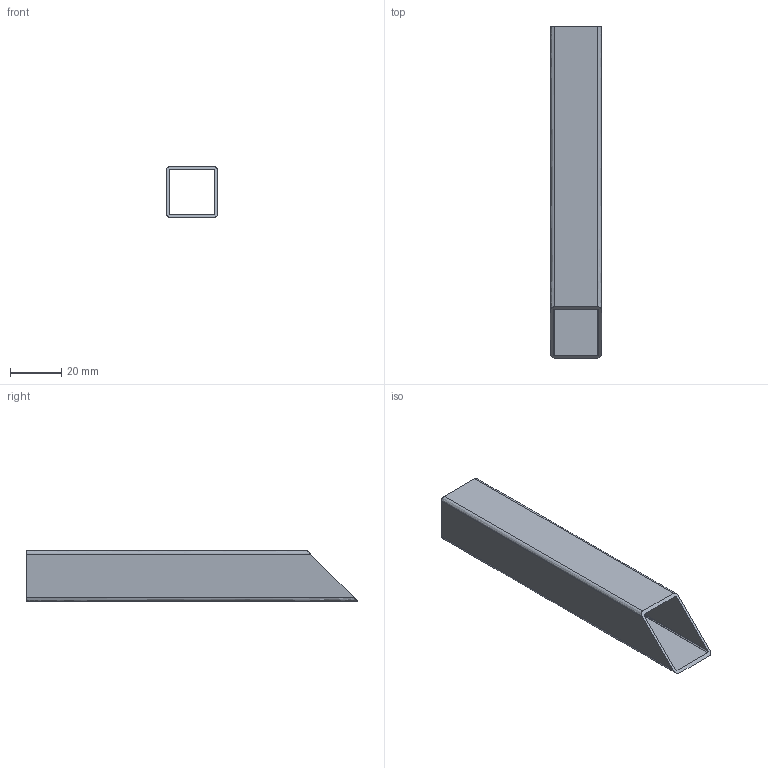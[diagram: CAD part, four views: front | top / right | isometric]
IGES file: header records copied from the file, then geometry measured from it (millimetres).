
Global section: file name: 0393-13-29; native system: VariCAD 2020-1.02; preprocessor: 5.3; author: LVVS3874K00E; organization: Elphe, Inc.; date: 20250930.170452; units: millimetre
Bounding box: 20 x 130 x 20 mm (x, y, z)
Surface area: 18007.3 mm2 (no closed solid volume)
Topology: 0 solids, 0 shells, 18 faces, 104 edges, 96 vertices
Faces by surface type: bspline 10, revolution 8
